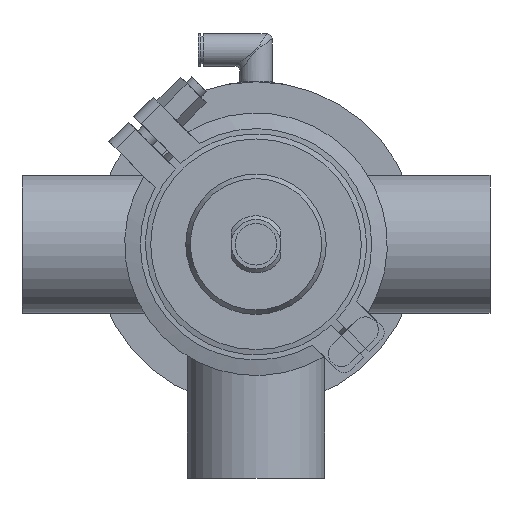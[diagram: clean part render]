
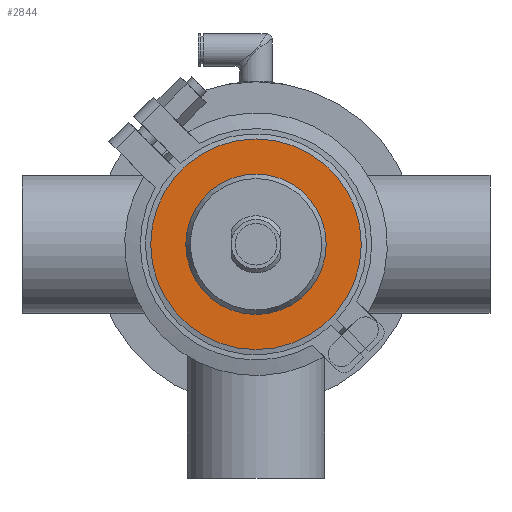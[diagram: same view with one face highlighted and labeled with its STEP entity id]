
A CAD part, front view. The second image highlights one B-rep face of the part: STEP entity #2844.
In plain terms, the highlighted planar face has unit normal (0, -1, 0).
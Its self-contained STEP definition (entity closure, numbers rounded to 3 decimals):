
#100 = CARTESIAN_POINT ( 'NONE',  ( 0., -13., 0. ) ) ;
#743 = ORIENTED_EDGE ( 'NONE', *, *, #20269, .F. ) ;
#1064 = CARTESIAN_POINT ( 'NONE',  ( 0., -13., 0. ) ) ;
#1235 = AXIS2_PLACEMENT_3D ( 'NONE', #1064, #17882, #5932 ) ;
#2844 = ADVANCED_FACE ( 'NONE', ( #3523, #15111 ), #13659, .T. ) ;
#3523 = FACE_BOUND ( 'NONE', #14400, .T. ) ;
#3946 = ORIENTED_EDGE ( 'NONE', *, *, #20922, .T. ) ;
#4859 = DIRECTION ( 'NONE',  ( 0., 0., -1. ) ) ;
#5932 = DIRECTION ( 'NONE',  ( 0., 0., 1. ) ) ;
#6192 = CARTESIAN_POINT ( 'NONE',  ( 0., -13., 40.5 ) ) ;
#6512 = DIRECTION ( 'NONE',  ( 0., -1., 0. ) ) ;
#6863 = DIRECTION ( 'NONE',  ( 0., 1., 0. ) ) ;
#9461 = VERTEX_POINT ( 'NONE', #14673 ) ;
#9740 = CIRCLE ( 'NONE', #18280, 40.5 ) ;
#10823 = CIRCLE ( 'NONE', #1235, 27. ) ;
#11649 = CARTESIAN_POINT ( 'NONE',  ( -40.5, -13., 0. ) ) ;
#13659 = PLANE ( 'NONE',  #21804 ) ;
#14400 = EDGE_LOOP ( 'NONE', ( #3946 ) ) ;
#14673 = CARTESIAN_POINT ( 'NONE',  ( 0., -13., 27. ) ) ;
#15111 = FACE_OUTER_BOUND ( 'NONE', #19608, .T. ) ;
#17882 = DIRECTION ( 'NONE',  ( 0., 1., 0. ) ) ;
#17931 = VERTEX_POINT ( 'NONE', #6192 ) ;
#18280 = AXIS2_PLACEMENT_3D ( 'NONE', #100, #6863, #20477 ) ;
#19608 = EDGE_LOOP ( 'NONE', ( #743 ) ) ;
#20269 = EDGE_CURVE ( 'NONE', #17931, #17931, #9740, .T. ) ;
#20477 = DIRECTION ( 'NONE',  ( 0., 0., 1. ) ) ;
#20922 = EDGE_CURVE ( 'NONE', #9461, #9461, #10823, .T. ) ;
#21804 = AXIS2_PLACEMENT_3D ( 'NONE', #11649, #6512, #4859 ) ;
